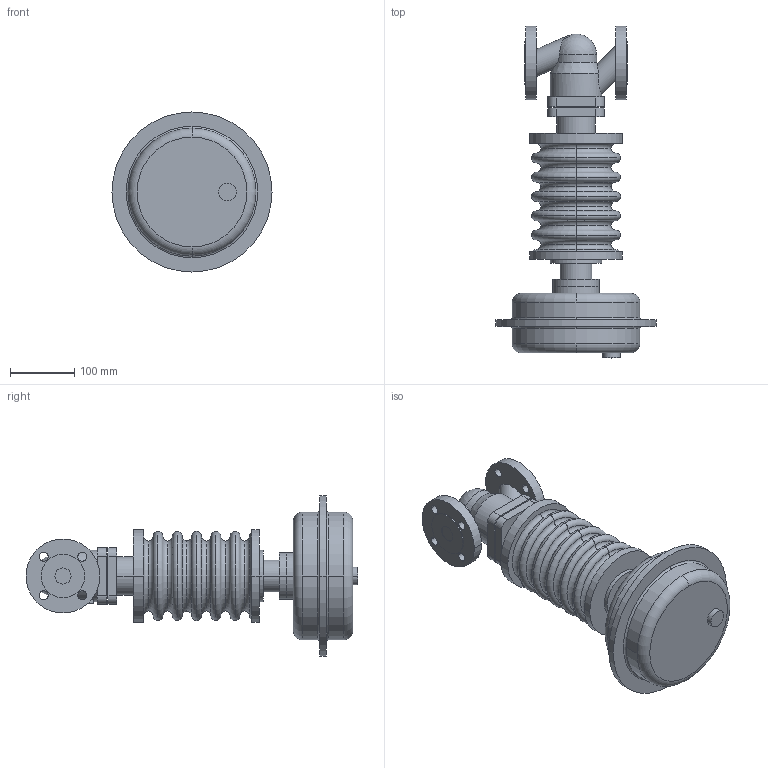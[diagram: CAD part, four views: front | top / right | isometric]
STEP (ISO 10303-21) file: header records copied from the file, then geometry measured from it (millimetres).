
FILE_DESCRIPTION( ( '' ), '1' );
FILE_NAME( 'F:/DE-SHS/TB/OR/04-Sonstiges/daten/files_3d/PREDU/PREDU-PN40-DMA250/c000005375.stp', '2014-06-03T11:24:15', ( '' ), ( '' ), ' ', ' ', ' ' );
FILE_SCHEMA( ( 'CONFIG_CONTROL_DESIGN' ) );
Length unit declared in the file: millimetre
Products named in the file (2): 1; 2
Bounding box: 249 x 516.5 x 249 mm (x, y, z)
Volume: 6722897 mm3; surface area: 427854 mm2
Topology: 2 solids, 2 shells, 173 faces, 413 edges, 265 vertices
Faces by surface type: cylinder 68, torus 54, plane 48, cone 2, sphere 1
Entity records: 5619 total; most frequent: CARTESIAN_POINT 1247, DIRECTION 1025, ORIENTED_EDGE 822, AXIS2_PLACEMENT_3D 449, EDGE_CURVE 411, CIRCLE 268, VERTEX_POINT 265, EDGE_LOOP 212
